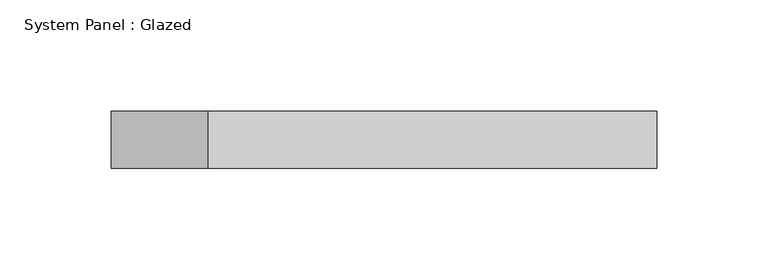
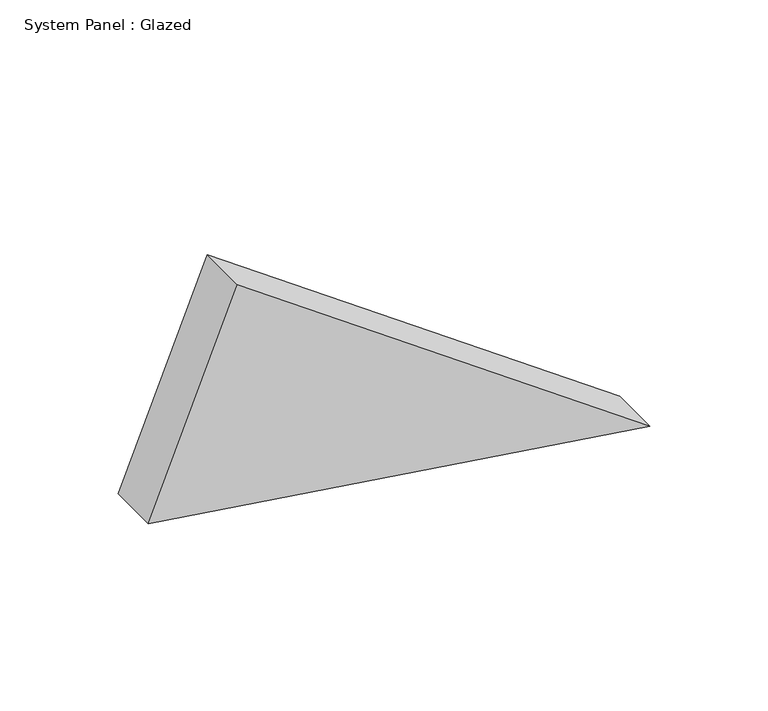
"""IFC4 building model written with IfcOpenShell, lengths in millimetres: plate geometry, System Panel : Glazed."""

from ifc_helpers import new_model, si_unit, frame, origin, place, context, project, spatial, polyline, outline, extrude, source, transform, mapped, element, save


def system_panel_glazed_72ef945e(model_context):
    return source(origin(), model_context, "Body", "SweptSolid", [
        extrude(outline(polyline([(35.3430569, -122.2876136), (0.0, 122.2876136), (143.402438, -78.9632602), (35.3430569, -122.2876136)])), frame((0.0, 19.05, 0.0), z_axis=(0.0, 1.0, 0.0), x_axis=(0.0, 0.0, 1.0)), (0.0, 0.0, 1.0), 25.4),
    ])


if __name__ == "__main__":
    model = new_model("IFC4")
    model_context = context("Model", 3, world=origin())
    ifc_project = project(units=[si_unit("LENGTHUNIT", "METRE", prefix="MILLI")], contexts=[model_context])
    site = spatial("IfcSite", under=ifc_project)
    building = spatial("IfcBuilding", under=site)
    placement = place(None, origin())
    system_panel_glazed_shape = system_panel_glazed_72ef945e(model_context)
    element("IfcPlate", 1, ObjectType="System Panel : Glazed", at=placement, inside=building, context=model_context, shape_type="MappedRepresentation", body=[
        mapped(system_panel_glazed_shape, transform((0.0, 0.0, 0.0), x_axis=(1.0, 0.0, 0.0), y_axis=(0.0, 1.0, 0.0), z_axis=(0.0, 0.0, 1.0))),
    ])
    save(model, "model.ifc")
